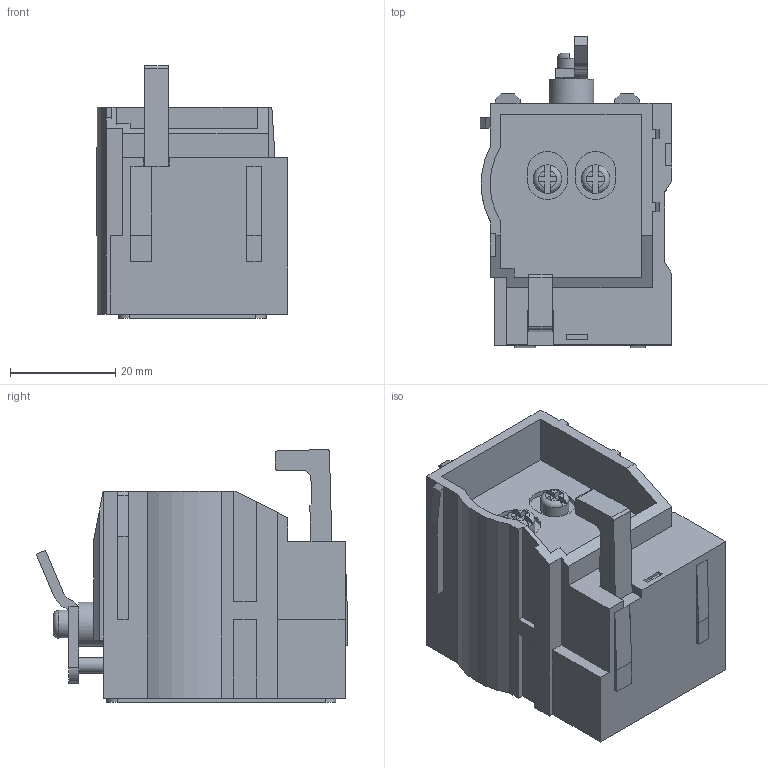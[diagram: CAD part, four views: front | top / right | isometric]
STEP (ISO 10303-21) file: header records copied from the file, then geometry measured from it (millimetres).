
FILE_DESCRIPTION(/* description */ (''),/* implementation_level */ '2;1');
FILE_NAME(/* name */ '800AC230V(右).stp',/* time_stamp */ '2018-10-30T15:34:19+08:00',/* author */ (''),/* organization */ (''),/* preprocessor_version */ 'ST-DEVELOPER v16',/* originating_system */ 'SIEMENS PLM Software NX 10.0',/* authorisation */ '');
FILE_SCHEMA (('AUTOMOTIVE_DESIGN { 1 0 10303 214 3 1 1 1 }'));
Length unit declared in the file: millimetre
Products named in the file (1): boj7F840C24e7w9
Bounding box: 36.35 x 59.17 x 48.05 mm (x, y, z)
Volume: 49555.6 mm3; surface area: 12186.6 mm2
Topology: 1 solids, 1 shells, 229 faces, 623 edges, 407 vertices
Faces by surface type: plane 189, cylinder 34, torus 6
Full cylindrical faces by diameter (mm): 3 x1, 5.4 x3, 8.4 x1
Entity records: 7327 total; most frequent: CARTESIAN_POINT 1528, ORIENTED_EDGE 1230, DIRECTION 1134, EDGE_CURVE 615, LINE 492, VECTOR 492, VERTEX_POINT 404, AXIS2_PLACEMENT_3D 321
